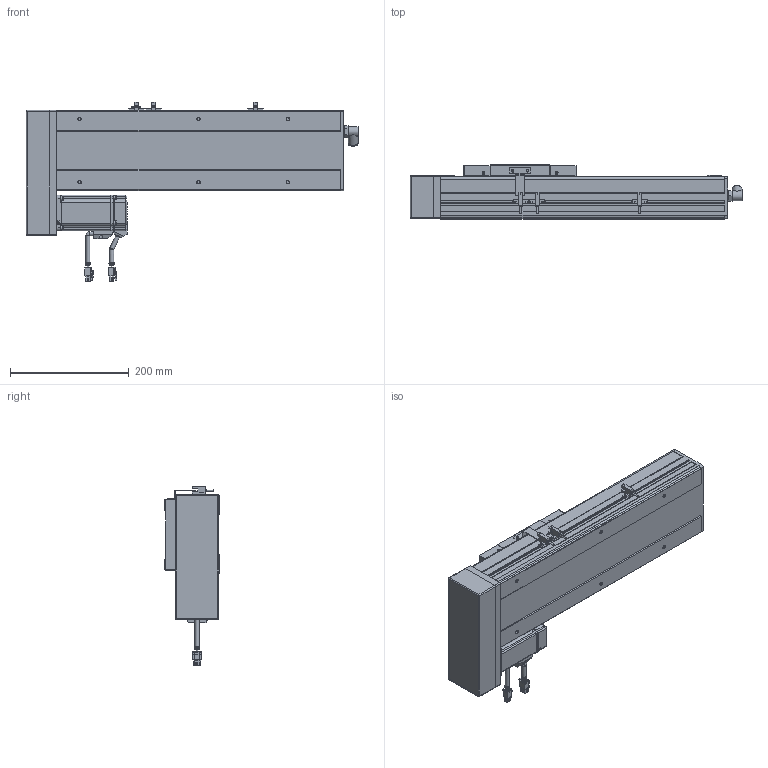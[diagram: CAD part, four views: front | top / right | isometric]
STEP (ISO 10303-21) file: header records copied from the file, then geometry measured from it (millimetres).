
FILE_DESCRIPTION(/* description */ ('STEP AP214'),/* implementation_level */ '2;1');
FILE_NAME(/* name */ 'PSC140-L05-S200-BR-P40-C1-N(0)',/* time_stamp */ '2022-06-13T03:32:38+02:00',/* author */ ('License CC BY-ND 4.0'),/* organization */ ('CADENAS'),/* preprocessor_version */ 'ST-DEVELOPER v18.102',/* originating_system */ 'PARTsolutions',/* authorisation */ ' ');
FILE_SCHEMA (('AUTOMOTIVE_DESIGN {1 0 10303 214 3 1 1}'));
Length unit declared in the file: millimetre
Products named in the file (11): PSC140-L05-S200-BR-P40-C1-N(0); P40-s2; P40-c2; P40-s1; P40-c1; P40-p1; PSC140-BR-body2; PSC140-sensor; PSC140-BR-SLIDER; PSC140-S200-BR-P40-C1_BODY1; PSC140-L05-S200-BR-P40-C1-N(0)_dummy
Assembly tree (12 placements, depth 2):
  PSC140-L05-S200-BR-P40-C1-N(0)
    P40-s2
    P40-c2
    P40-s1
    P40-c1
    P40-p1
    PSC140-BR-body2
    PSC140-sensor  x3
    PSC140-BR-SLIDER
    PSC140-S200-BR-P40-C1_BODY1
    PSC140-L05-S200-BR-P40-C1-N(0)_dummy
Bounding box: 558 x 91 x 300.88 mm (x, y, z)
Volume: 6140347.4 mm3; surface area: 424596.6 mm2
Topology: 11 solids, 11 shells, 1213 faces, 3149 edges, 2085 vertices
Faces by surface type: plane 852, cylinder 308, cone 34, torus 19
Full cylindrical faces by diameter (mm): 1 x8, 2.6 x10, 2.8 x3, 3.3 x8, 4.5 x12, 4.6 x3, 4.917 x10, 5 x4, 5.5 x8, 6 x10, 7 x10, 9 x2, 10 x1, 11 x1, 12 x1, 13.74 x1, 14 x1, 16.4 x2, 16.5 x1, 36 x1, 50 x2
Entity records: 33726 total; most frequent: CARTESIAN_POINT 5899, DIRECTION 5659, ORIENTED_EDGE 5498, EDGE_CURVE 2749, LINE 2097, VECTOR 2097, VERTEX_POINT 1906, AXIS2_PLACEMENT_3D 1781
